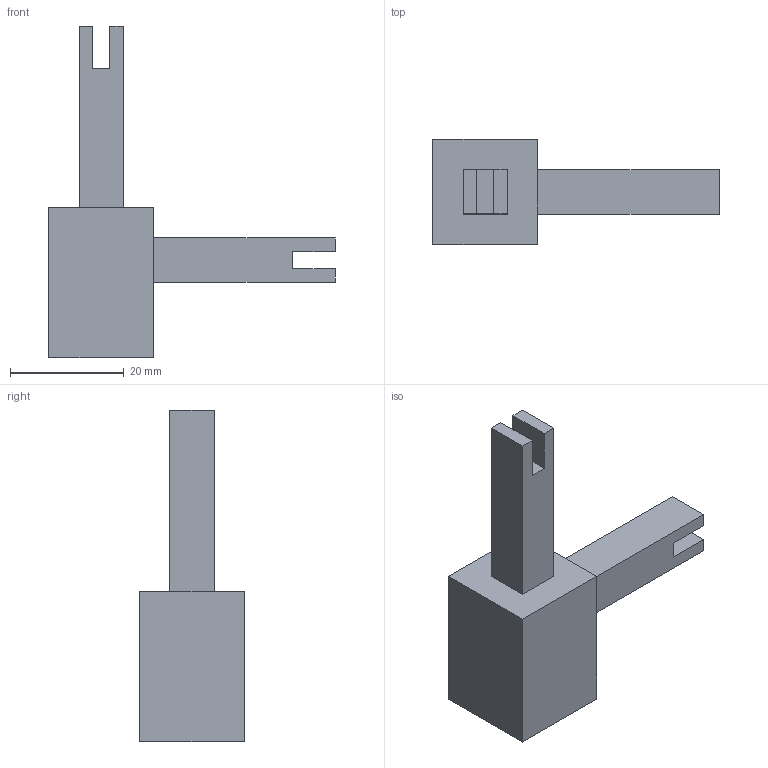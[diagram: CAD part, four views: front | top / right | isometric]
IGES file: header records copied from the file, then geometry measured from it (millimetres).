
Start section: Data from Parasolid IGES Translator 20.0.26, Copyright(c) 2006 Siemens P LM Software. All Rights Reserved.
Global section: file name: 9298823.igs; native system: By Siemens PLM Incorporated; preprocessor: XPlus GENERIC/IGES 20.0.26; author: Noname; organization: Noname; date: 20210831.145320; units: millimetre
Bounding box: 50.5 x 18.5 x 58.5 mm (x, y, z)
Surface area: 4786.3 mm2 (no closed solid volume)
Topology: 0 solids, 0 shells, 24 faces, 120 edges, 120 vertices
Faces by surface type: extrusion 24
